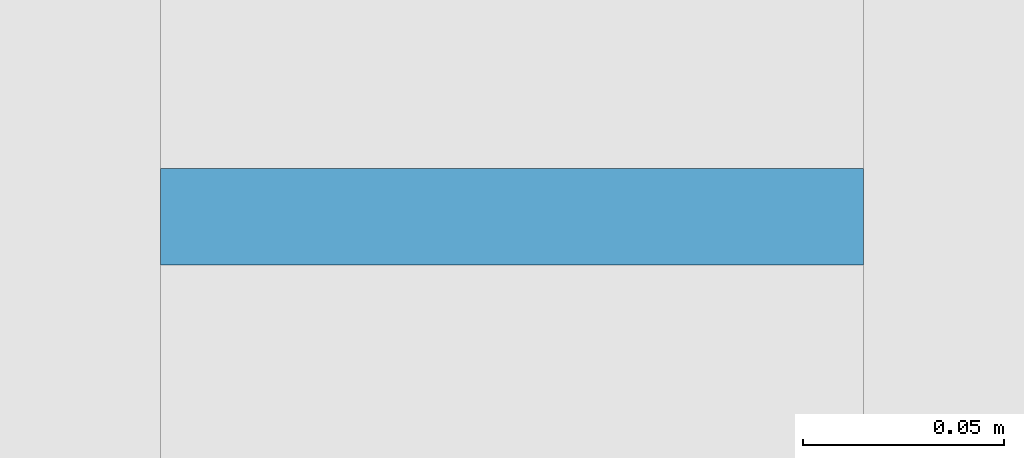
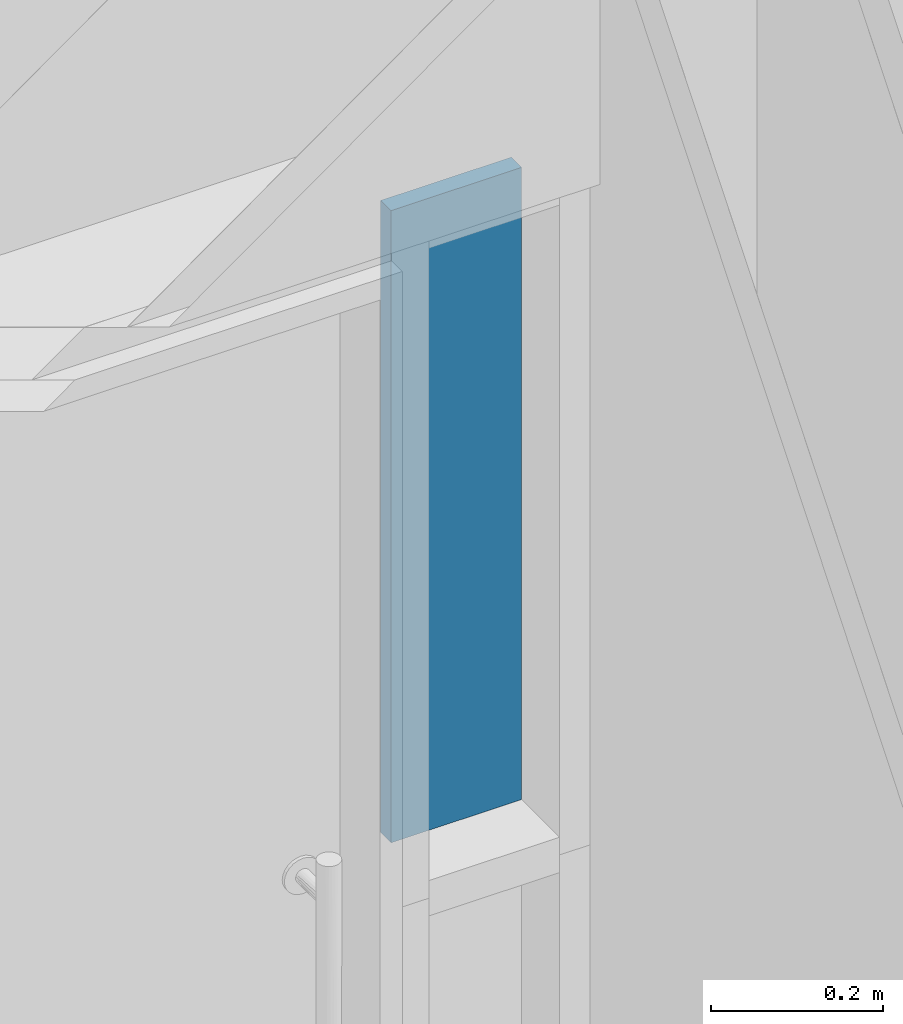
# One storey, part 38 of 81: 1 plate, 1 element without a shape of its own.
"""IFC2X3 building model written with IfcOpenShell, lengths in millimetres."""

from ifc_helpers import new_model, entity, si_unit, converted_unit, derived_unit, direction, frame, origin, origin_2d_with_axis, place, context, subcontext, project, spatial, rectangle, extrude, source, transform, mapped, material, type_object, type_shapes, element, aggregate, save


model = new_model("IFC2X3")

# Units and contexts
model_context = context("Model", 3, precision=0.01, world=origin(), true_north=direction((6.123031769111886e-17, 1.0)))
body_context = subcontext(model_context, "Body", "Model", "MODEL_VIEW")
ifc_project = project(units=[si_unit("LENGTHUNIT", "METRE", prefix="MILLI"), si_unit("AREAUNIT", "SQUARE_METRE"), si_unit("VOLUMEUNIT", "CUBIC_METRE"), converted_unit("PLANEANGLEUNIT", "DEGREE", entity("IfcRatioMeasure", 0.017453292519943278), si_unit("PLANEANGLEUNIT", "RADIAN"), dimensions=[0, 0, 0, 0, 0, 0, 0]), si_unit("MASSUNIT", "GRAM", prefix="KILO"), derived_unit("MASSDENSITYUNIT", [(si_unit("MASSUNIT", "GRAM", prefix="KILO"), 1), (si_unit("LENGTHUNIT", "METRE"), -3)]), derived_unit("MOMENTOFINERTIAUNIT", [(si_unit("LENGTHUNIT", "METRE"), 4)]), si_unit("TIMEUNIT", "SECOND"), si_unit("FREQUENCYUNIT", "HERTZ"), si_unit("THERMODYNAMICTEMPERATUREUNIT", "DEGREE_CELSIUS"), derived_unit("THERMALTRANSMITTANCEUNIT", [(si_unit("MASSUNIT", "GRAM", prefix="KILO"), 1), (si_unit("THERMODYNAMICTEMPERATUREUNIT", "KELVIN"), -1), (si_unit("TIMEUNIT", "SECOND"), -3)]), derived_unit("VOLUMETRICFLOWRATEUNIT", [(si_unit("LENGTHUNIT", "METRE"), 3), (si_unit("TIMEUNIT", "SECOND"), -1)]), derived_unit("MASSFLOWRATEUNIT", [(si_unit("MASSUNIT", "GRAM", prefix="KILO"), 1), (si_unit("TIMEUNIT", "SECOND"), -1)]), derived_unit("ROTATIONALFREQUENCYUNIT", [(si_unit("TIMEUNIT", "SECOND"), -1)]), si_unit("ELECTRICCURRENTUNIT", "AMPERE"), si_unit("ELECTRICVOLTAGEUNIT", "VOLT"), si_unit("POWERUNIT", "WATT"), si_unit("FORCEUNIT", "NEWTON", prefix="KILO"), si_unit("ILLUMINANCEUNIT", "LUX"), si_unit("LUMINOUSFLUXUNIT", "LUMEN"), si_unit("LUMINOUSINTENSITYUNIT", "CANDELA"), derived_unit("USERDEFINED", [(si_unit("MASSUNIT", "GRAM", prefix="KILO"), -1), (si_unit("LENGTHUNIT", "METRE"), -2), (si_unit("TIMEUNIT", "SECOND"), 3), (si_unit("LUMINOUSFLUXUNIT", "LUMEN"), 1)]), derived_unit("SOUNDPOWERUNIT", [(si_unit("MASSUNIT", "GRAM", prefix="KILO"), 1), (si_unit("LENGTHUNIT", "METRE"), 2), (si_unit("TIMEUNIT", "SECOND"), -3)]), derived_unit("SOUNDPRESSUREUNIT", [(si_unit("MASSUNIT", "GRAM", prefix="KILO"), 1), (si_unit("LENGTHUNIT", "METRE"), -1), (si_unit("TIMEUNIT", "SECOND"), -2)]), derived_unit("LINEARVELOCITYUNIT", [(si_unit("LENGTHUNIT", "METRE"), 1), (si_unit("TIMEUNIT", "SECOND"), -1)]), si_unit("PRESSUREUNIT", "PASCAL"), derived_unit("USERDEFINED", [(si_unit("LENGTHUNIT", "METRE"), -2), (si_unit("MASSUNIT", "GRAM", prefix="KILO"), 1), (si_unit("TIMEUNIT", "SECOND"), -2)]), derived_unit("LINEARFORCEUNIT", [(si_unit("MASSUNIT", "GRAM", prefix="KILO"), 1), (si_unit("LENGTHUNIT", "METRE"), 1), (si_unit("TIMEUNIT", "SECOND"), -2), (si_unit("LENGTHUNIT", "METRE"), -1)]), derived_unit("PLANARFORCEUNIT", [(si_unit("MASSUNIT", "GRAM", prefix="KILO"), 1), (si_unit("LENGTHUNIT", "METRE"), 1), (si_unit("TIMEUNIT", "SECOND"), -2), (si_unit("LENGTHUNIT", "METRE"), -2)])], contexts=[model_context])

# Site, building, storey
site_placement = place(None, frame((-14167.972527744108, -657.2125860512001, 0.0)))
site = spatial("IfcSite", under=ifc_project, at=site_placement, Name="Default", CompositionType="ELEMENT")
building_placement = place(site_placement, origin())
building = spatial("IfcBuilding", under=site, at=building_placement, Name="Sample Building", CompositionType="ELEMENT")
storey_placement = place(building_placement, frame((0.0, 0.0, 13400.0)))
storey = spatial("IfcBuildingStorey", under=building, at=storey_placement, Name="지상 4층", CompositionType="ELEMENT", Elevation=13400.00000000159)

# Curtain wall, plate
curtain_wall_type = type_object("IfcCurtainWallType", Name="커튼월:CW112-스테인리스 스틸 커튼월", PredefinedType="NOTDEFINED")
curtain_wall_placement = place(storey_placement, frame((0.0, 0.0, -13400.0)))
curtain_wall = element("IfcCurtainWall", 1, at=curtain_wall_placement, inside=storey, type_object=curtain_wall_type, Name="커튼월:CW112-스테인리스 스틸 커튼월", ObjectType="커튼월:CW112-스테인리스 스틸 커튼월")
ifc_material = material(Name="KBIMS-로이유리(코팅)")
plate_type = type_object("IfcPlateType", Name="CW300-THK24.Low-e coating glass:CW300-THK24.Low-e coating glass", PredefinedType="CURTAIN_PANEL", material=ifc_material)
shared_shape = source(origin(), body_context, "Body", "SweptSolid", [
    extrude(rectangle(XDim=175.00000000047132, YDim=24.000000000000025, at=origin_2d_with_axis()), frame((0.0, 0.0, 0.0), z_axis=(0.0, 0.0, 1.0), x_axis=(-1.0, 0.0, 0.0)), (0.0, 0.0, 1.0), 895.0000000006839),
])
type_shapes(plate_type, [shared_shape])
plate_placement = place(curtain_wall_placement, frame((37830.46379814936, 26982.21229514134, 14555.0)))
plate = element("IfcPlate", 2, at=plate_placement, type_object=plate_type, material=ifc_material, Name="CW300-THK24.Low-e coating glass:CW300-THK24.Low-e coating glass", ObjectType="CW300-THK24.Low-e coating glass:CW300-THK24.Low-e coating glass", context=body_context, shape_type="MappedRepresentation", body=[
    mapped(shared_shape, transform((0.0, 0.0, 0.0), scale=1.0)),
])
aggregate(curtain_wall, [plate])

save(model, "model.ifc")
